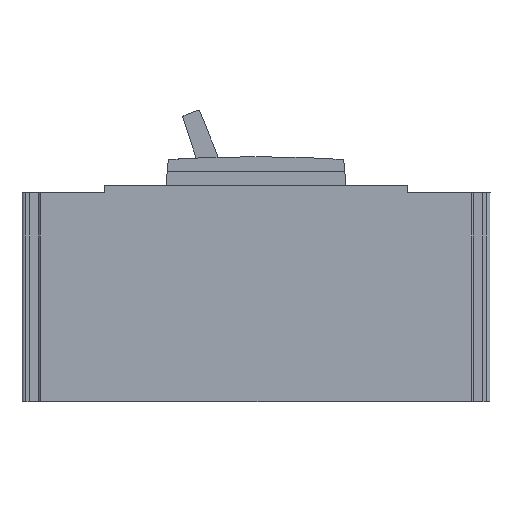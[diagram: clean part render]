
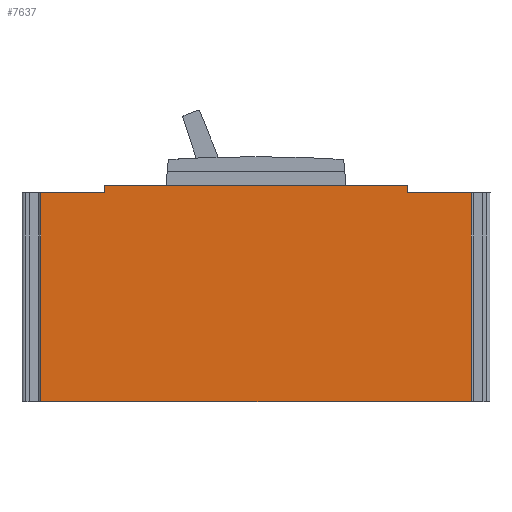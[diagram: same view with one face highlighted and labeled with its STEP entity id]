
A CAD part, left-side view. The second image highlights one B-rep face of the part: STEP entity #7637.
In plain terms, the highlighted planar face has unit normal (-1, 0, 0).
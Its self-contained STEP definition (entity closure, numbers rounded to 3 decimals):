
#27 = VERTEX_POINT ( 'NONE', #762 ) ;
#163 = VERTEX_POINT ( 'NONE', #2492 ) ;
#369 = VECTOR ( 'NONE', #3556, 1000. ) ;
#762 = CARTESIAN_POINT ( 'NONE',  ( -37.3, 59.8, 58. ) ) ;
#887 = CARTESIAN_POINT ( 'NONE',  ( -37.3, -42., 58. ) ) ;
#1041 = CARTESIAN_POINT ( 'NONE',  ( -37.3, 0., 0. ) ) ;
#1130 = ORIENTED_EDGE ( 'NONE', *, *, #3095, .F. ) ;
#1433 = VERTEX_POINT ( 'NONE', #6525 ) ;
#1464 = CARTESIAN_POINT ( 'NONE',  ( -37.3, 42., 58. ) ) ;
#1527 = ORIENTED_EDGE ( 'NONE', *, *, #5507, .T. ) ;
#1633 = ORIENTED_EDGE ( 'NONE', *, *, #6621, .F. ) ;
#1869 = ORIENTED_EDGE ( 'NONE', *, *, #3615, .F. ) ;
#2008 = LINE ( 'NONE', #8541, #369 ) ;
#2010 = CARTESIAN_POINT ( 'NONE',  ( -37.3, 42., 0. ) ) ;
#2180 = VERTEX_POINT ( 'NONE', #1464 ) ;
#2251 = CARTESIAN_POINT ( 'NONE',  ( -37.3, -42., 0. ) ) ;
#2414 = VECTOR ( 'NONE', #3004, 1000. ) ;
#2492 = CARTESIAN_POINT ( 'NONE',  ( -37.3, -59.8, 0. ) ) ;
#2696 = CARTESIAN_POINT ( 'NONE',  ( -37.3, 0., 58. ) ) ;
#2794 = VECTOR ( 'NONE', #6813, 1000. ) ;
#3004 = DIRECTION ( 'NONE',  ( 0., 0., -1. ) ) ;
#3095 = EDGE_CURVE ( 'NONE', #7552, #6143, #2008, .T. ) ;
#3121 = AXIS2_PLACEMENT_3D ( 'NONE', #3122, #3824, #3916 ) ;
#3122 = CARTESIAN_POINT ( 'NONE',  ( -37.3, 0., 80.91 ) ) ;
#3514 = CARTESIAN_POINT ( 'NONE',  ( -37.3, 42., 0. ) ) ;
#3556 = DIRECTION ( 'NONE',  ( 0., -1., 0. ) ) ;
#3615 = EDGE_CURVE ( 'NONE', #6143, #4918, #8855, .T. ) ;
#3824 = DIRECTION ( 'NONE',  ( 1., 0., 0. ) ) ;
#3841 = DIRECTION ( 'NONE',  ( 0., -1., 0. ) ) ;
#3878 = EDGE_CURVE ( 'NONE', #1433, #163, #7727, .T. ) ;
#3903 = LINE ( 'NONE', #6130, #2794 ) ;
#3909 = ORIENTED_EDGE ( 'NONE', *, *, #7422, .F. ) ;
#3916 = DIRECTION ( 'NONE',  ( 0., 0., -1. ) ) ;
#3948 = CARTESIAN_POINT ( 'NONE',  ( -37.3, 0., 0. ) ) ;
#3966 = VECTOR ( 'NONE', #6314, 1000. ) ;
#4067 = LINE ( 'NONE', #3948, #5289 ) ;
#4125 = FACE_OUTER_BOUND ( 'NONE', #5104, .T. ) ;
#4161 = CARTESIAN_POINT ( 'NONE',  ( -37.3, -59.8, 80.91 ) ) ;
#4703 = ORIENTED_EDGE ( 'NONE', *, *, #5172, .T. ) ;
#4769 = DIRECTION ( 'NONE',  ( 0., -1., 0. ) ) ;
#4918 = VERTEX_POINT ( 'NONE', #887 ) ;
#5070 = ORIENTED_EDGE ( 'NONE', *, *, #7802, .F. ) ;
#5104 = EDGE_LOOP ( 'NONE', ( #1527, #8179, #4703, #5167, #5070, #1869, #1130, #3909, #1633 ) ) ;
#5151 = VECTOR ( 'NONE', #4769, 1000. ) ;
#5167 = ORIENTED_EDGE ( 'NONE', *, *, #3878, .F. ) ;
#5172 = EDGE_CURVE ( 'NONE', #6655, #163, #4067, .T. ) ;
#5289 = VECTOR ( 'NONE', #7545, 1000. ) ;
#5507 = EDGE_CURVE ( 'NONE', #27, #8853, #7823, .T. ) ;
#5709 = EDGE_CURVE ( 'NONE', #8853, #6655, #8482, .T. ) ;
#5930 = LINE ( 'NONE', #2696, #5151 ) ;
#6130 = CARTESIAN_POINT ( 'NONE',  ( -37.3, 0., 58. ) ) ;
#6143 = VERTEX_POINT ( 'NONE', #8464 ) ;
#6144 = VECTOR ( 'NONE', #8570, 1000. ) ;
#6314 = DIRECTION ( 'NONE',  ( 0., 0., -1. ) ) ;
#6476 = CARTESIAN_POINT ( 'NONE',  ( -37.3, 59.8, 80.91 ) ) ;
#6525 = CARTESIAN_POINT ( 'NONE',  ( -37.3, -59.8, 58. ) ) ;
#6621 = EDGE_CURVE ( 'NONE', #27, #2180, #5930, .T. ) ;
#6655 = VERTEX_POINT ( 'NONE', #2010 ) ;
#6813 = DIRECTION ( 'NONE',  ( 0., -1., 0. ) ) ;
#6949 = VECTOR ( 'NONE', #7205, 1000. ) ;
#7205 = DIRECTION ( 'NONE',  ( 0., 0., -1. ) ) ;
#7419 = PLANE ( 'NONE',  #3121 ) ;
#7422 = EDGE_CURVE ( 'NONE', #2180, #7552, #7467, .T. ) ;
#7467 = LINE ( 'NONE', #3514, #6144 ) ;
#7545 = DIRECTION ( 'NONE',  ( 0., -1., 0. ) ) ;
#7552 = VERTEX_POINT ( 'NONE', #8712 ) ;
#7637 = ADVANCED_FACE ( 'NONE', ( #4125 ), #7419, .F. ) ;
#7727 = LINE ( 'NONE', #4161, #3966 ) ;
#7802 = EDGE_CURVE ( 'NONE', #4918, #1433, #3903, .T. ) ;
#7823 = LINE ( 'NONE', #6476, #6949 ) ;
#8179 = ORIENTED_EDGE ( 'NONE', *, *, #5709, .T. ) ;
#8464 = CARTESIAN_POINT ( 'NONE',  ( -37.3, -42., 60. ) ) ;
#8482 = LINE ( 'NONE', #1041, #8710 ) ;
#8517 = CARTESIAN_POINT ( 'NONE',  ( -37.3, 59.8, 0. ) ) ;
#8541 = CARTESIAN_POINT ( 'NONE',  ( -37.3, 0., 60. ) ) ;
#8570 = DIRECTION ( 'NONE',  ( 0., 0., 1. ) ) ;
#8710 = VECTOR ( 'NONE', #3841, 1000. ) ;
#8712 = CARTESIAN_POINT ( 'NONE',  ( -37.3, 42., 60. ) ) ;
#8853 = VERTEX_POINT ( 'NONE', #8517 ) ;
#8855 = LINE ( 'NONE', #2251, #2414 ) ;
